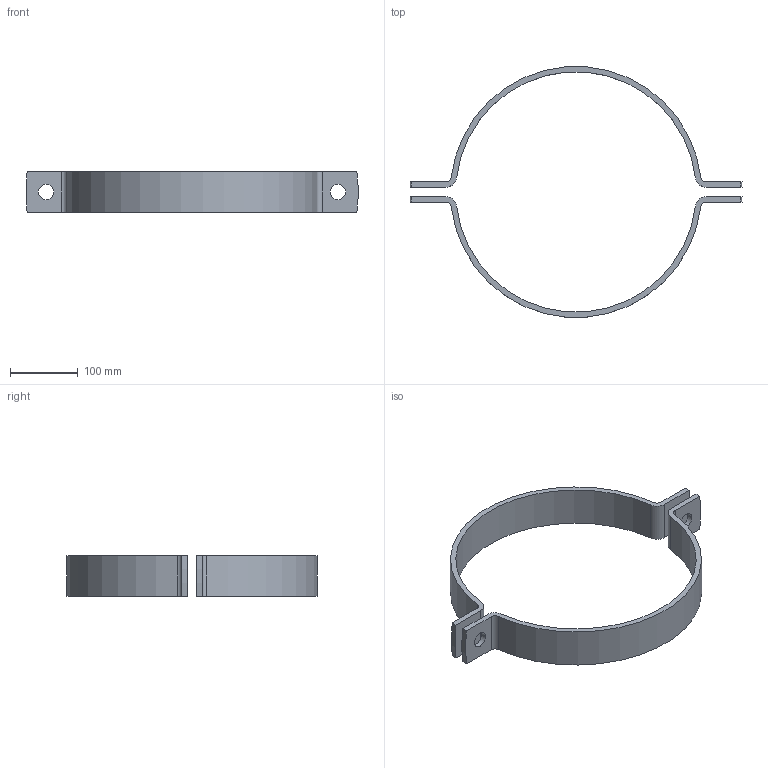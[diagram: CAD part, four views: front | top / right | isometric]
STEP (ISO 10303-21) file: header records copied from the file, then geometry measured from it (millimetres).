
FILE_DESCRIPTION (( 'STEP AP203' ), '1' );
FILE_NAME ('NW350-356 (DIN 3567).STEP', '2023-12-08T11:36:32', ( '' ), ( '' ), 'SwSTEP 2.0', 'SolidWorks 2023', '' );
FILE_SCHEMA (( 'CONFIG_CONTROL_DESIGN' ));
Length unit declared in the file: millimetre
Products named in the file (1): NW350-356 (DIN 3567)
Bounding box: 491.59 x 370.64 x 60 mm (x, y, z)
Volume: 628824.5 mm3; surface area: 182768.7 mm2
Topology: 2 solids, 2 shells, 36 faces, 96 edges, 64 vertices
Faces by surface type: cylinder 24, plane 12
Entity records: 1239 total; most frequent: DIRECTION 218, CARTESIAN_POINT 197, ORIENTED_EDGE 192, EDGE_CURVE 96, AXIS2_PLACEMENT_3D 85, VERTEX_POINT 64, CIRCLE 48, VECTOR 48
